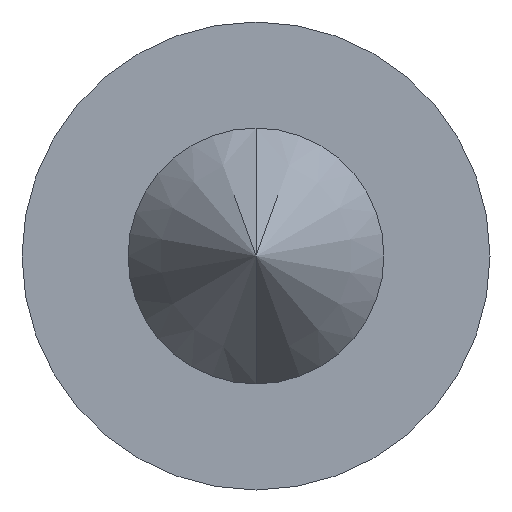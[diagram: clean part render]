
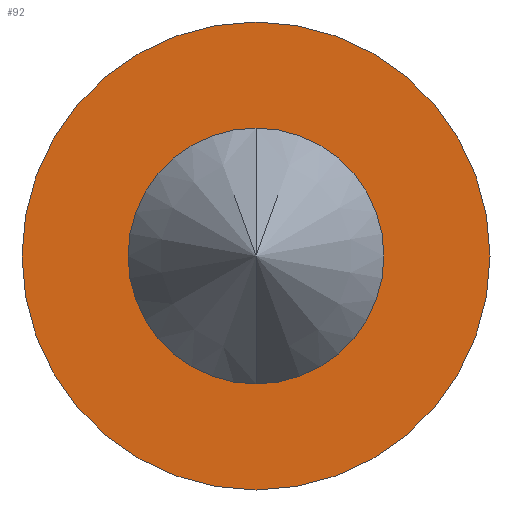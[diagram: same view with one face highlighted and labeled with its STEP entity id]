
A CAD part, front view. The second image highlights one B-rep face of the part: STEP entity #92.
In plain terms, the highlighted planar face has unit normal (0, -1, 0).
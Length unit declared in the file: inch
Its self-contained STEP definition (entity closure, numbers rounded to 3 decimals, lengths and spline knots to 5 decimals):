
#24 = CARTESIAN_POINT ( 'NONE',  ( 0., -0.25084, -0.1975 ) ) ;
#34 = VERTEX_POINT ( 'NONE', #199 ) ;
#43 = EDGE_CURVE ( 'NONE', #126, #34, #236, .T. ) ;
#55 = DIRECTION ( 'NONE',  ( 0., -1., 0. ) ) ;
#56 = EDGE_LOOP ( 'NONE', ( #251, #285 ) ) ;
#57 = AXIS2_PLACEMENT_3D ( 'NONE', #195, #164, #111 ) ;
#66 = DIRECTION ( 'NONE',  ( 0., 0., -1. ) ) ;
#71 = AXIS2_PLACEMENT_3D ( 'NONE', #273, #146, #90 ) ;
#73 = CIRCLE ( 'NONE', #295, 0.108 ) ;
#89 = PLANE ( 'NONE',  #223 ) ;
#90 = DIRECTION ( 'NONE',  ( 0., 0., -1. ) ) ;
#92 = ADVANCED_FACE ( 'NONE', ( #235, #142 ), #89, .T. ) ;
#105 = CARTESIAN_POINT ( 'NONE',  ( 0., -0.25084, 0. ) ) ;
#111 = DIRECTION ( 'NONE',  ( 0., 0., -1. ) ) ;
#126 = VERTEX_POINT ( 'NONE', #24 ) ;
#129 = CIRCLE ( 'NONE', #372, 0.1975 ) ;
#142 = FACE_BOUND ( 'NONE', #56, .T. ) ;
#146 = DIRECTION ( 'NONE',  ( 0., -1., 0. ) ) ;
#153 = ORIENTED_EDGE ( 'NONE', *, *, #43, .T. ) ;
#164 = DIRECTION ( 'NONE',  ( 0., -1., 0. ) ) ;
#195 = CARTESIAN_POINT ( 'NONE',  ( 0., -0.25084, 0. ) ) ;
#196 = DIRECTION ( 'NONE',  ( 0., 0., -1. ) ) ;
#199 = CARTESIAN_POINT ( 'NONE',  ( 0., -0.25084, 0.1975 ) ) ;
#222 = DIRECTION ( 'NONE',  ( 0., -1., 0. ) ) ;
#223 = AXIS2_PLACEMENT_3D ( 'NONE', #333, #55, #300 ) ;
#235 = FACE_OUTER_BOUND ( 'NONE', #287, .T. ) ;
#236 = CIRCLE ( 'NONE', #71, 0.1975 ) ;
#246 = CARTESIAN_POINT ( 'NONE',  ( 0., -0.25084, 0. ) ) ;
#247 = EDGE_CURVE ( 'NONE', #34, #126, #129, .T. ) ;
#251 = ORIENTED_EDGE ( 'NONE', *, *, #339, .F. ) ;
#273 = CARTESIAN_POINT ( 'NONE',  ( 0., -0.25084, 0. ) ) ;
#277 = CIRCLE ( 'NONE', #57, 0.108 ) ;
#283 = ORIENTED_EDGE ( 'NONE', *, *, #247, .T. ) ;
#285 = ORIENTED_EDGE ( 'NONE', *, *, #310, .F. ) ;
#287 = EDGE_LOOP ( 'NONE', ( #153, #283 ) ) ;
#295 = AXIS2_PLACEMENT_3D ( 'NONE', #105, #222, #196 ) ;
#300 = DIRECTION ( 'NONE',  ( 0., 0., -1. ) ) ;
#310 = EDGE_CURVE ( 'NONE', #313, #374, #277, .T. ) ;
#313 = VERTEX_POINT ( 'NONE', #355 ) ;
#333 = CARTESIAN_POINT ( 'NONE',  ( 0., -0.25084, -0.108 ) ) ;
#339 = EDGE_CURVE ( 'NONE', #374, #313, #73, .T. ) ;
#352 = CARTESIAN_POINT ( 'NONE',  ( 0., -0.25084, -0.108 ) ) ;
#355 = CARTESIAN_POINT ( 'NONE',  ( 0., -0.25084, 0.108 ) ) ;
#372 = AXIS2_PLACEMENT_3D ( 'NONE', #246, #373, #66 ) ;
#373 = DIRECTION ( 'NONE',  ( 0., -1., 0. ) ) ;
#374 = VERTEX_POINT ( 'NONE', #352 ) ;
